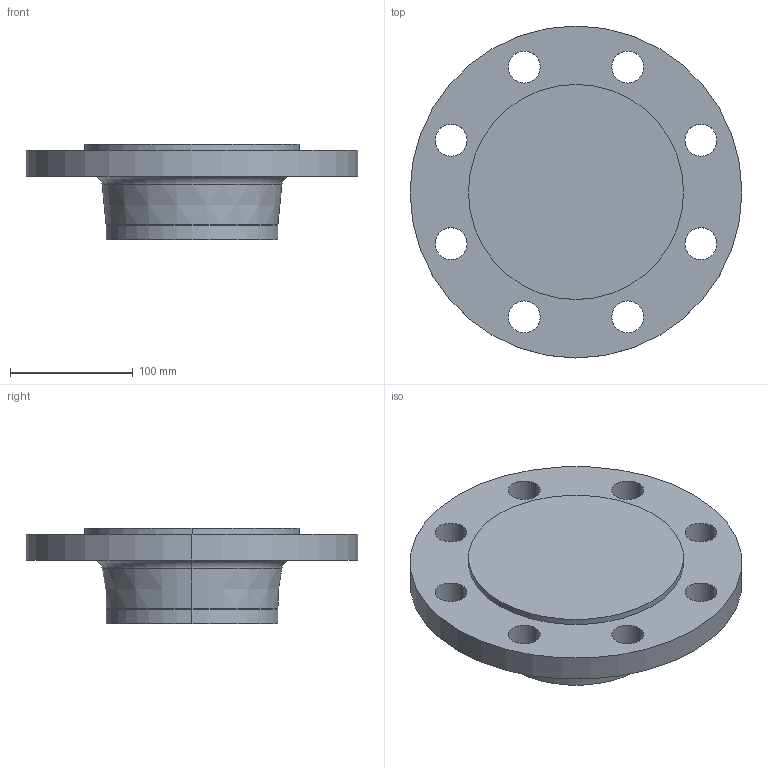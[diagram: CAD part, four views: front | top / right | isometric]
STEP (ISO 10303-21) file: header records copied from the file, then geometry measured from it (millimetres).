
FILE_DESCRIPTION (( 'STEP AP214' ), '1' );
FILE_NAME ('PN40 DN125 Type 21(ii) - Type E Face.STEP', '2019-01-02T01:08:33', ( '' ), ( '' ), 'SwSTEP 2.0', 'SolidWorks 2019', '' );
FILE_SCHEMA (( 'AUTOMOTIVE_DESIGN' ));
Length unit declared in the file: millimetre
Products named in the file (1): PN40 DN125 Type 21(ii) - Type E Face
Bounding box: 270 x 270 x 78 mm (x, y, z)
Volume: 2070144.7 mm3; surface area: 160698.7 mm2
Topology: 1 solids, 1 shells, 32 faces, 78 edges, 50 vertices
Faces by surface type: cylinder 22, torus 4, plane 4, cone 2
Entity records: 1034 total; most frequent: DIRECTION 198, CARTESIAN_POINT 161, ORIENTED_EDGE 156, AXIS2_PLACEMENT_3D 87, EDGE_CURVE 78, CIRCLE 54, VERTEX_POINT 50, EDGE_LOOP 50
